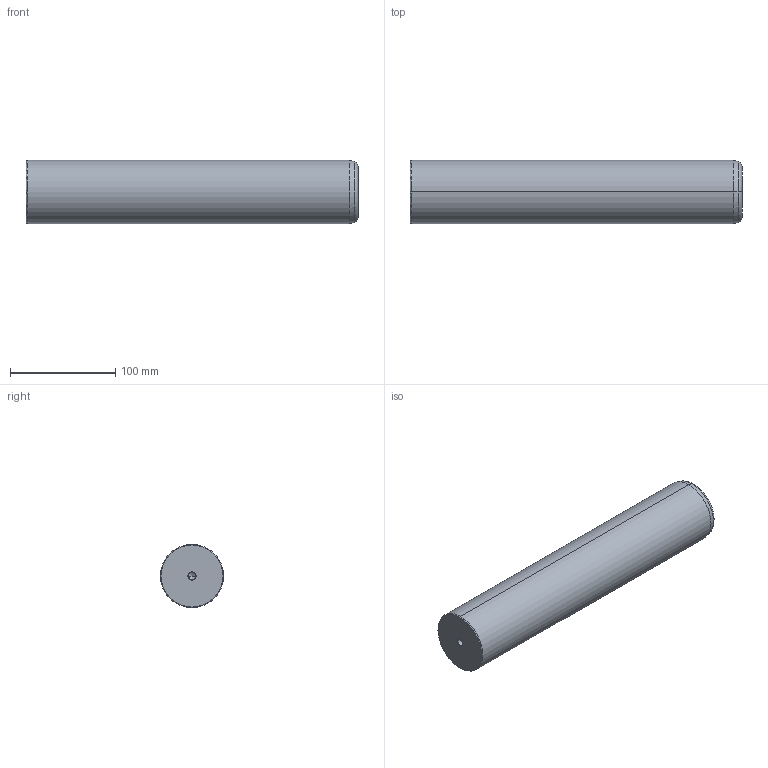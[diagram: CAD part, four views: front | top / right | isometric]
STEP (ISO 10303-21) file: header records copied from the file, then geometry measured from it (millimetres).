
FILE_DESCRIPTION(('CATIA V5 STEP Exchange'),'2;1');
FILE_NAME('C:\Users\Utente\Desktop\IO LAVORO\3D X SITO CF\X SITO\720\720-60x315.stp','2020-12-30T21:33:59+00:00',('none'),('none'),'CATIA Version 5 Release 20 GA (IN-10)','CATIA V5 STEP AP203','none');
FILE_SCHEMA(('CONFIG_CONTROL_DESIGN'));
Length unit declared in the file: millimetre
Products named in the file (1): 720-60x315
Bounding box: 315 x 60 x 60 mm (x, y, z)
Volume: 886806.6 mm3; surface area: 65351.2 mm2
Topology: 1 solids, 1 shells, 22 faces, 62 edges, 40 vertices
Faces by surface type: cone 12, cylinder 6, plane 2, torus 2
Entity records: 806 total; most frequent: CARTESIAN_POINT 229, ORIENTED_EDGE 116, DIRECTION 93, EDGE_CURVE 58, AXIS2_PLACEMENT_3D 54, VERTEX_POINT 40, CIRCLE 31, EDGE_LOOP 24
